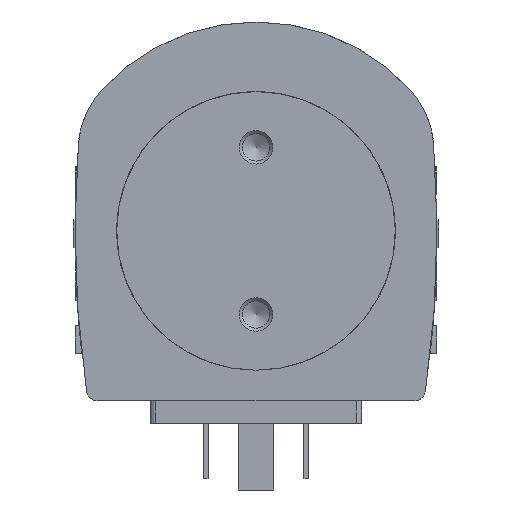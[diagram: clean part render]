
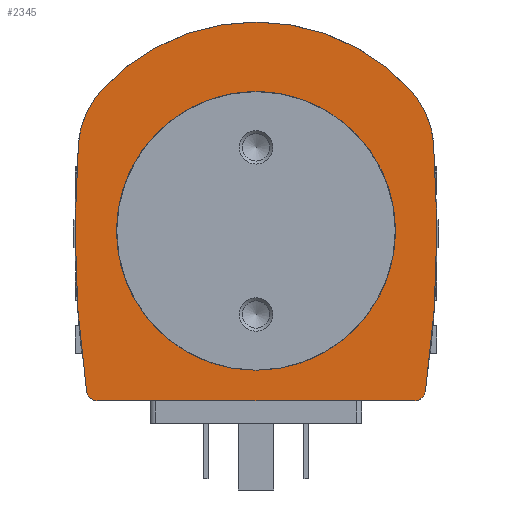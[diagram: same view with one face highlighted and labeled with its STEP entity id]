
A CAD part, front view. The second image highlights one B-rep face of the part: STEP entity #2345.
In plain terms, the highlighted planar face has unit normal (0, -1, 0).
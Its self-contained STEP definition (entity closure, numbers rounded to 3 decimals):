
#100=PLANE('',#3251);
#262=LINE('',#4373,#484);
#484=VECTOR('',#3628,1000.);
#950=ORIENTED_EDGE('',*,*,#1471,.F.);
#951=ORIENTED_EDGE('',*,*,#1455,.F.);
#952=ORIENTED_EDGE('',*,*,#1470,.F.);
#953=ORIENTED_EDGE('',*,*,#1475,.F.);
#954=ORIENTED_EDGE('',*,*,#1465,.F.);
#955=ORIENTED_EDGE('',*,*,#1436,.F.);
#956=ORIENTED_EDGE('',*,*,#1472,.F.);
#957=ORIENTED_EDGE('',*,*,#1413,.F.);
#1413=EDGE_CURVE('',#1710,#1711,#262,.T.);
#1436=EDGE_CURVE('',#1730,#1731,#1866,.T.);
#1455=EDGE_CURVE('',#1748,#1749,#1871,.T.);
#1465=EDGE_CURVE('',#1731,#1758,#1874,.T.);
#1470=EDGE_CURVE('',#1761,#1748,#1875,.T.);
#1471=EDGE_CURVE('',#1749,#1710,#1876,.T.);
#1472=EDGE_CURVE('',#1711,#1730,#1877,.T.);
#1475=EDGE_CURVE('',#1758,#1761,#1878,.T.);
#1710=VERTEX_POINT('',#4372);
#1711=VERTEX_POINT('',#4374);
#1730=VERTEX_POINT('',#4418);
#1731=VERTEX_POINT('',#4420);
#1748=VERTEX_POINT('',#4456);
#1749=VERTEX_POINT('',#4458);
#1758=VERTEX_POINT('',#4478);
#1761=VERTEX_POINT('',#4486);
#1866=CIRCLE('',#3221,200.1);
#1871=CIRCLE('',#3231,200.1);
#1874=CIRCLE('',#3237,16.);
#1875=CIRCLE('',#3241,16.);
#1876=CIRCLE('',#3243,2.);
#1877=CIRCLE('',#3245,2.);
#1878=CIRCLE('',#3250,37.5);
#1986=EDGE_LOOP('',(#950,#951,#952,#953,#954,#955,#956,#957));
#2170=FACE_BOUND('',#1986,.T.);
#2345=ADVANCED_FACE('',(#2170),#100,.F.);
#3221=AXIS2_PLACEMENT_3D('',#4419,#3669,#3670);
#3231=AXIS2_PLACEMENT_3D('',#4457,#3699,#3700);
#3237=AXIS2_PLACEMENT_3D('',#4477,#3716,#3717);
#3241=AXIS2_PLACEMENT_3D('',#4487,#3726,#3727);
#3243=AXIS2_PLACEMENT_3D('',#4489,#3730,#3731);
#3245=AXIS2_PLACEMENT_3D('',#4491,#3734,#3735);
#3250=AXIS2_PLACEMENT_3D('',#4496,#3744,#3745);
#3251=AXIS2_PLACEMENT_3D('',#4497,#3746,#3747);
#3628=DIRECTION('',(0.,0.,1.));
#3669=DIRECTION('',(0.,1.,0.));
#3670=DIRECTION('',(1.,0.,0.));
#3699=DIRECTION('',(0.,1.,0.));
#3700=DIRECTION('',(1.,0.,0.));
#3716=DIRECTION('',(0.,1.,0.));
#3717=DIRECTION('',(1.,0.,0.));
#3726=DIRECTION('',(0.,1.,0.));
#3727=DIRECTION('',(1.,0.,0.));
#3730=DIRECTION('',(0.,1.,0.));
#3731=DIRECTION('',(1.,0.,0.));
#3734=DIRECTION('',(0.,1.,0.));
#3735=DIRECTION('',(1.,0.,0.));
#3744=DIRECTION('',(0.,1.,0.));
#3745=DIRECTION('',(1.,0.,0.));
#3746=DIRECTION('',(0.,1.,0.));
#3747=DIRECTION('',(0.,0.,1.));
#4372=CARTESIAN_POINT('',(-30.5,-38.8,-28.424));
#4373=CARTESIAN_POINT('',(-30.5,-38.8,-28.424));
#4374=CARTESIAN_POINT('',(-30.5,-38.8,28.424));
#4418=CARTESIAN_POINT('',(-28.788,-38.8,30.403));
#4419=CARTESIAN_POINT('',(0.,-38.8,-167.615));
#4420=CARTESIAN_POINT('',(15.71,-38.8,31.867));
#4456=CARTESIAN_POINT('',(15.71,-38.8,-31.867));
#4457=CARTESIAN_POINT('',(0.,-38.8,167.615));
#4458=CARTESIAN_POINT('',(-28.788,-38.8,-30.403));
#4477=CARTESIAN_POINT('',(14.454,-38.8,15.917));
#4478=CARTESIAN_POINT('',(25.21,-38.8,27.762));
#4486=CARTESIAN_POINT('',(25.21,-38.8,-27.762));
#4487=CARTESIAN_POINT('',(14.454,-38.8,-15.917));
#4489=CARTESIAN_POINT('',(-28.5,-38.8,-28.424));
#4491=CARTESIAN_POINT('',(-28.5,-38.8,28.424));
#4496=CARTESIAN_POINT('',(0.,-38.8,0.));
#4497=CARTESIAN_POINT('',(-28.5,-38.8,-28.424));
